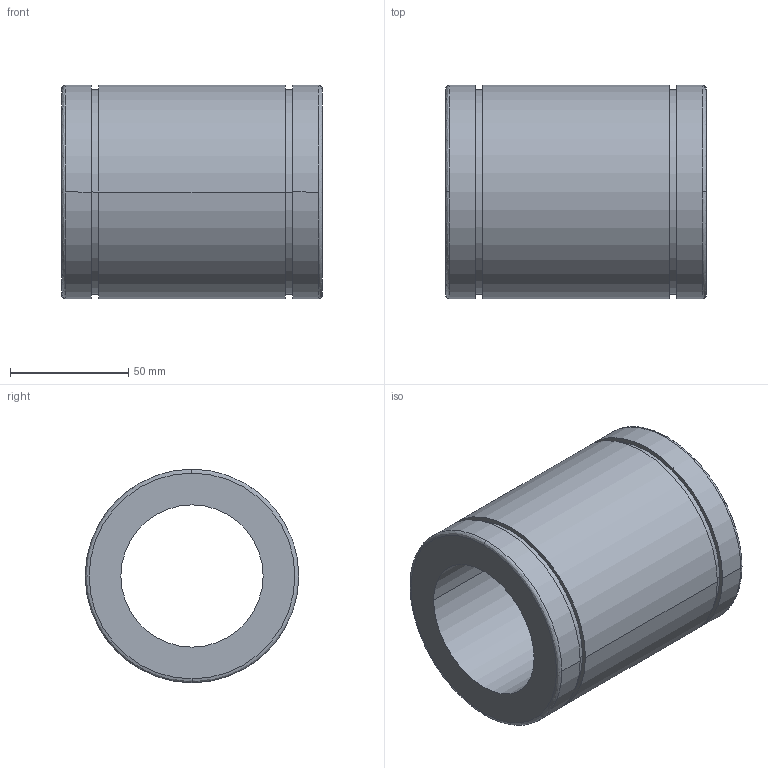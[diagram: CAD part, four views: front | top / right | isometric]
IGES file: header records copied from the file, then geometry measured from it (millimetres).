
Start section: 3D InterOp IGES (Version 21 0 1), Spatial Corp. Copyright (c) 1999-2007.
Global section: file name: N-60UU.igs; native system: Spatial Corp.; preprocessor: 3D InterOp GENERIC/IGES 3.0; author: Noname; organization: Noname; date: 20220311.144722; units: millimetre
Bounding box: 110 x 90 x 90 mm (x, y, z)
Surface area: 60385.7 mm2 (no closed solid volume)
Topology: 0 solids, 0 shells, 22 faces, 100 edges, 100 vertices
Faces by surface type: revolution 16, extrusion 6
